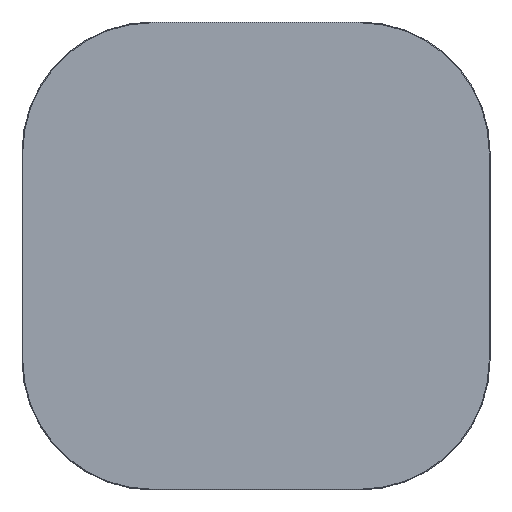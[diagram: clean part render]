
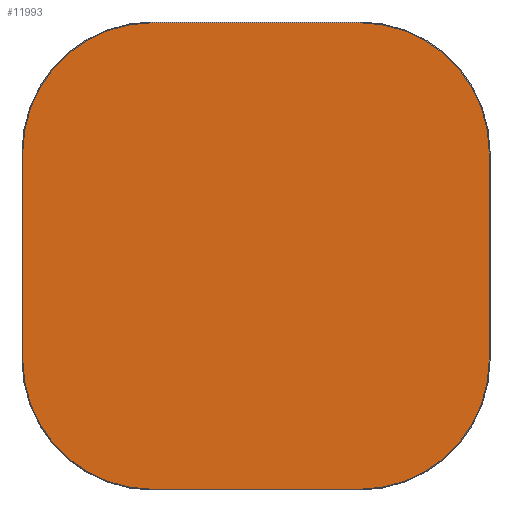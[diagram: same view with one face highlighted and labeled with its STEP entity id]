
A CAD part, top view. The second image highlights one B-rep face of the part: STEP entity #11993.
In plain terms, the highlighted planar face has unit normal (0, 0, 1).
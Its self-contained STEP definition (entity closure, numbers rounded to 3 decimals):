
#11918=CARTESIAN_POINT('',(0.,0.,20.));
#11919=DIRECTION('',(1.,0.,0.));
#11920=DIRECTION('',(0.,0.,1.));
#11921=AXIS2_PLACEMENT_3D('',#11918,#11920,#11919);
#11922=PLANE('',#11921);
#11923=CARTESIAN_POINT('',(-200.,-448.5,20.));
#11924=VERTEX_POINT('',#11923);
#11925=CARTESIAN_POINT('',(200.,-448.5,20.));
#11926=VERTEX_POINT('',#11925);
#11927=CARTESIAN_POINT('',(-200.,-448.5,20.));
#11928=DIRECTION('',(1.,0.,0.));
#11929=VECTOR('',#11928,400.);
#11930=LINE('',#11927,#11929);
#11931=EDGE_CURVE('',#11924,#11926,#11930,.T.);
#11932=ORIENTED_EDGE('E105',*,*,#11931,.T.);
#11933=CARTESIAN_POINT('',(448.5,-200.,20.));
#11934=VERTEX_POINT('',#11933);
#11935=CARTESIAN_POINT('',(200.,-200.,20.));
#11936=DIRECTION('',(0.,-1.,0.));
#11937=DIRECTION('',(0.,0.,1.));
#11938=AXIS2_PLACEMENT_3D('',#11935,#11937,#11936);
#11939=CIRCLE('',#11938,248.5);
#11940=EDGE_CURVE('',#11926,#11934,#11939,.T.);
#11941=ORIENTED_EDGE('E107',*,*,#11940,.T.);
#11942=CARTESIAN_POINT('',(448.5,200.,20.));
#11943=VERTEX_POINT('',#11942);
#11944=CARTESIAN_POINT('',(448.5,-200.,20.));
#11945=DIRECTION('',(0.,1.,0.));
#11946=VECTOR('',#11945,400.);
#11947=LINE('',#11944,#11946);
#11948=EDGE_CURVE('',#11934,#11943,#11947,.T.);
#11949=ORIENTED_EDGE('E109',*,*,#11948,.T.);
#11950=CARTESIAN_POINT('',(200.,448.5,20.));
#11951=VERTEX_POINT('',#11950);
#11952=CARTESIAN_POINT('',(200.,200.,20.));
#11953=DIRECTION('',(1.,0.,0.));
#11954=DIRECTION('',(0.,0.,1.));
#11955=AXIS2_PLACEMENT_3D('',#11952,#11954,#11953);
#11956=CIRCLE('',#11955,248.5);
#11957=EDGE_CURVE('',#11943,#11951,#11956,.T.);
#11958=ORIENTED_EDGE('E111',*,*,#11957,.T.);
#11959=CARTESIAN_POINT('',(-200.,448.5,20.));
#11960=VERTEX_POINT('',#11959);
#11961=CARTESIAN_POINT('',(200.,448.5,20.));
#11962=DIRECTION('',(-1.,0.,0.));
#11963=VECTOR('',#11962,400.);
#11964=LINE('',#11961,#11963);
#11965=EDGE_CURVE('',#11951,#11960,#11964,.T.);
#11966=ORIENTED_EDGE('E113',*,*,#11965,.T.);
#11967=CARTESIAN_POINT('',(-448.5,200.,20.));
#11968=VERTEX_POINT('',#11967);
#11969=CARTESIAN_POINT('',(-200.,200.,20.));
#11970=DIRECTION('',(0.,1.,0.));
#11971=DIRECTION('',(0.,0.,1.));
#11972=AXIS2_PLACEMENT_3D('',#11969,#11971,#11970);
#11973=CIRCLE('',#11972,248.5);
#11974=EDGE_CURVE('',#11960,#11968,#11973,.T.);
#11975=ORIENTED_EDGE('E115',*,*,#11974,.T.);
#11976=CARTESIAN_POINT('',(-448.5,-200.,20.));
#11977=VERTEX_POINT('',#11976);
#11978=CARTESIAN_POINT('',(-448.5,200.,20.));
#11979=DIRECTION('',(0.,-1.,0.));
#11980=VECTOR('',#11979,400.);
#11981=LINE('',#11978,#11980);
#11982=EDGE_CURVE('',#11968,#11977,#11981,.T.);
#11983=ORIENTED_EDGE('E117',*,*,#11982,.T.);
#11984=CARTESIAN_POINT('',(-200.,-200.,20.));
#11985=DIRECTION('',(-1.,0.,0.));
#11986=DIRECTION('',(-0.,0.,1.));
#11987=AXIS2_PLACEMENT_3D('',#11984,#11986,#11985);
#11988=CIRCLE('',#11987,248.5);
#11989=EDGE_CURVE('',#11977,#11924,#11988,.T.);
#11990=ORIENTED_EDGE('E119',*,*,#11989,.T.);
#11991=EDGE_LOOP('',(#11932,#11941,#11949,#11958,#11966,#11975,#11983,#11990));
#11992=FACE_OUTER_BOUND('',#11991,.T.);
#11993=ADVANCED_FACE('F2',(#11992),#11922,.T.);
